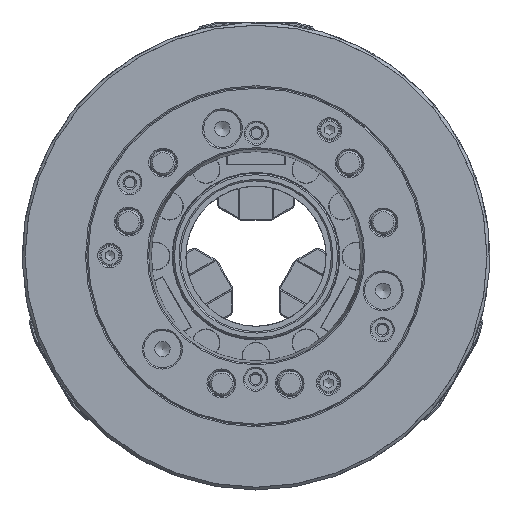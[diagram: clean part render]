
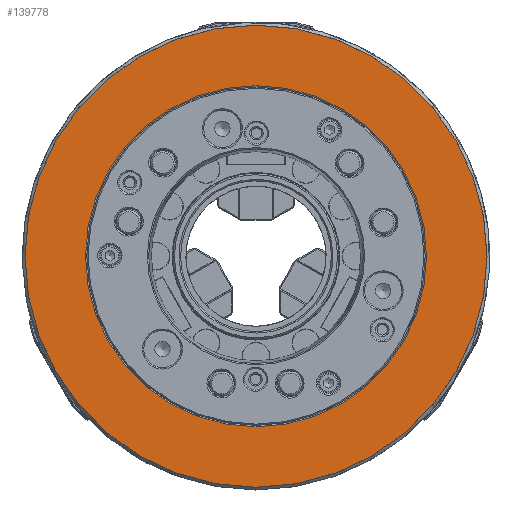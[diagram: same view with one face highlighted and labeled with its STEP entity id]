
A CAD part, front view. The second image highlights one B-rep face of the part: STEP entity #139778.
In plain terms, the highlighted planar face has unit normal (0, -1, 0).
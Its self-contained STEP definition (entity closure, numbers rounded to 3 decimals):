
#38986=FACE_BOUND('',#51015,.T.);
#43966=FACE_OUTER_BOUND('',#51014,.T.);
#51014=EDGE_LOOP('',(#119100));
#51015=EDGE_LOOP('',(#119101));
#53769=CIRCLE('',#148930,150.193);
#53770=CIRCLE('',#148931,110.861);
#63990=VERTEX_POINT('',#225989);
#63991=VERTEX_POINT('',#225991);
#82977=EDGE_CURVE('',#63990,#63990,#53769,.T.);
#82978=EDGE_CURVE('',#63991,#63991,#53770,.T.);
#119100=ORIENTED_EDGE('',*,*,#82977,.F.);
#119101=ORIENTED_EDGE('',*,*,#82978,.F.);
#133835=PLANE('',#148929);
#139778=ADVANCED_FACE('',(#43966,#38986),#133835,.F.);
#148929=AXIS2_PLACEMENT_3D('',#225988,#178130,#178131);
#148930=AXIS2_PLACEMENT_3D('',#225990,#178132,#178133);
#148931=AXIS2_PLACEMENT_3D('',#225992,#178134,#178135);
#178130=DIRECTION('center_axis',(0.,1.,0.));
#178131=DIRECTION('ref_axis',(0.,0.,1.));
#178132=DIRECTION('center_axis',(0.,1.,0.));
#178133=DIRECTION('ref_axis',(0.,0.,1.));
#178134=DIRECTION('center_axis',(0.,-1.,0.));
#178135=DIRECTION('ref_axis',(0.,0.,1.));
#225988=CARTESIAN_POINT('Origin',(0.,0.,-110.));
#225989=CARTESIAN_POINT('',(0.,0.,-150.193));
#225990=CARTESIAN_POINT('Origin',(0.,0.,0.));
#225991=CARTESIAN_POINT('',(0.,0.,-110.861));
#225992=CARTESIAN_POINT('Origin',(0.,0.,0.));
